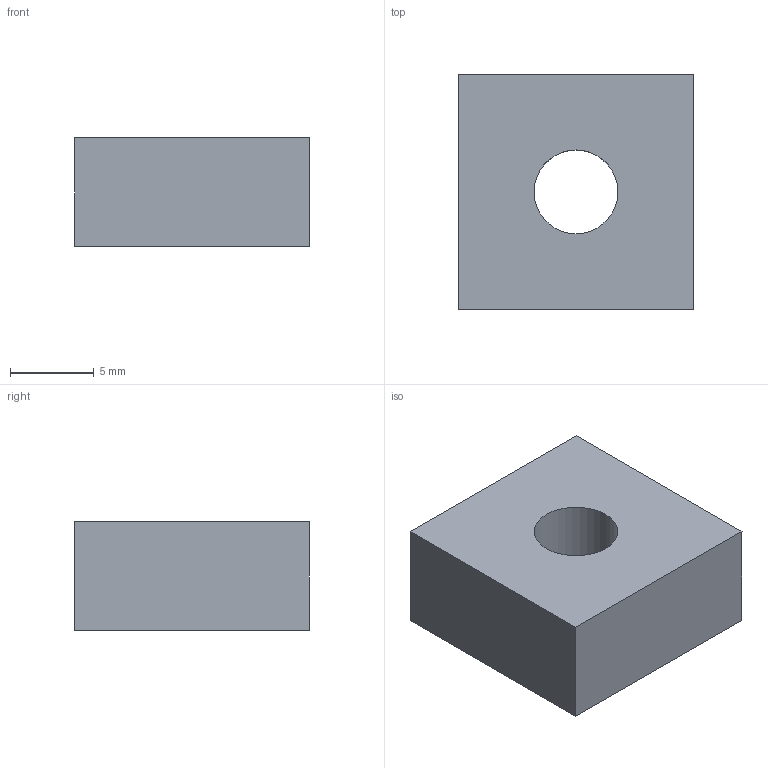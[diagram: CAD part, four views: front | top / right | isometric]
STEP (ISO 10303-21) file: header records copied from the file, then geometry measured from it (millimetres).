
FILE_DESCRIPTION( ( 'STEP AP203' ), '1' );
FILE_NAME( 'C:/NSM-08-5.stp', '2013-10-20T23:53:11', ( ' ' ), ( ' ' ), 'XStep 1.0', ' ', ' ' );
FILE_SCHEMA( ( 'CONFIG_CONTROL_DESIGN' ) );
Length unit declared in the file: metre
Products named in the file (1): 1
Bounding box: 14 x 14 x 6.5 mm (x, y, z)
Volume: 1145.3 mm3; surface area: 819.1 mm2
Topology: 1 solids, 1 shells, 7 faces, 15 edges, 10 vertices
Faces by surface type: bspline 7
Entity records: 243 total; most frequent: CARTESIAN_POINT 63, ORIENTED_EDGE 28, DIRECTION 18, EDGE_CURVE 14, LINE 12, VECTOR 12, EDGE_LOOP 10, VERTEX_POINT 10
